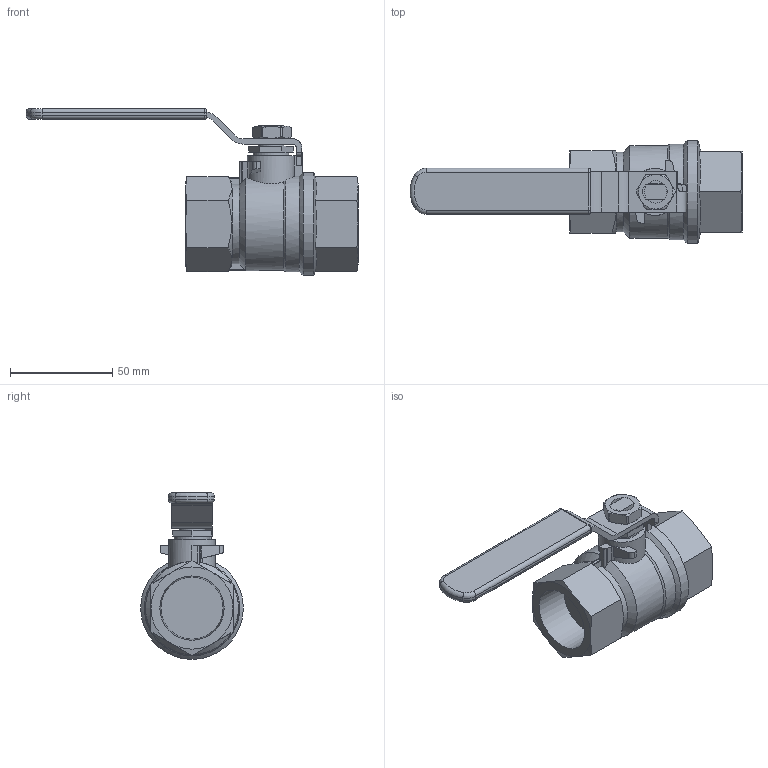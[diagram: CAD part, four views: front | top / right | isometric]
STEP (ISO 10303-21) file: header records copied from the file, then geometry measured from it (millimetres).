
FILE_DESCRIPTION((' '),'2;1');
FILE_NAME('N:\Technical Support\Private\Jomar Valve CAD\Ball Valves\Brass\T-100NE[G]\1.0 T-100NE[G] (100-705[NGDZ])FusionCopy.stp.step','2016-07-19T13:59:34',(' '),(' '),' ','ACIS',' ');
FILE_SCHEMA(('CONFIG_CONTROL_DESIGN'));
Length unit declared in the file: inch
Products named in the file (7): N:\Technical Support\Private\Jomar Valve CAD\Ball Valves\Brass\T-100NE[G]\1.0 T-100NE[G] (100-705[NGDZ])FusionCopy.stp.step; Body1; Body2; Body3; Body4; Body5; Body6
Assembly tree (6 placements, depth 2):
  N:\Technical Support\Private\Jomar Valve CAD\Ball Valves\Brass\T-100NE[G]\1.0 T-100NE[G] (100-705[NGDZ])FusionCopy.stp.step
    Body1
    Body2
    Body3
    Body4
    Body5
    Body6
Bounding box: 162.46 x 50.29 x 81.67 mm (x, y, z)
Volume: 123176.6 mm3; surface area: 37120.3 mm2
Topology: 6 solids, 6 shells, 192 faces, 494 edges, 319 vertices
Faces by surface type: plane 88, cylinder 59, cone 31, torus 10, bspline 4
Full cylindrical faces by diameter (mm): 5.283 x1, 11.049 x1, 12.573 x1, 12.7 x1, 17.475 x1, 50.292 x1
Entity records: 7010 total; most frequent: CARTESIAN_POINT 1615, ORIENTED_EDGE 954, DIRECTION 916, EDGE_CURVE 477, AXIS2_PLACEMENT_3D 351, VERTEX_POINT 313, EDGE_LOOP 216, VECTOR 214
